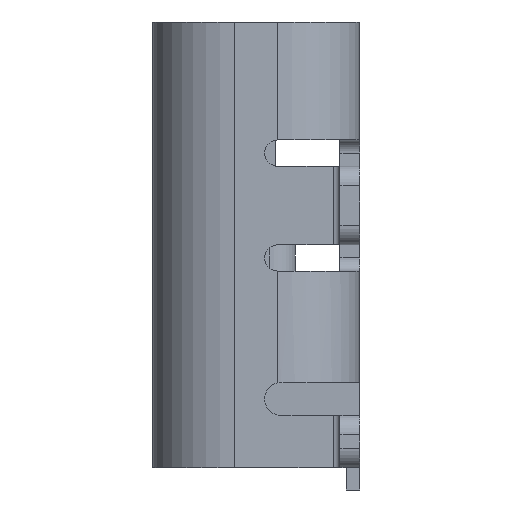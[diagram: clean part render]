
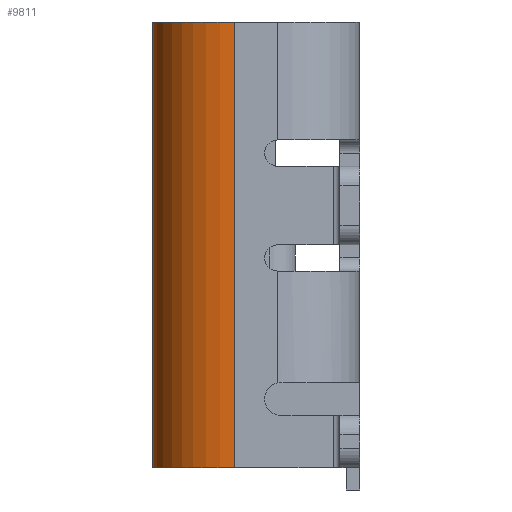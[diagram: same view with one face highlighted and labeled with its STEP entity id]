
A CAD part, left-side view. The second image highlights one B-rep face of the part: STEP entity #9811.
In plain terms, the highlighted cylindrical face has radius 1.25 mm (diameter 2.5 mm), a partial arc.
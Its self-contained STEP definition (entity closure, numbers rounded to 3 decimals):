
#40 = AXIS2_PLACEMENT_3D ( 'NONE', #8852, #6820, #1530 ) ;
#461 = VERTEX_POINT ( 'NONE', #10931 ) ;
#523 = AXIS2_PLACEMENT_3D ( 'NONE', #9711, #2463, #3411 ) ;
#1256 = DIRECTION ( 'NONE',  ( 0., 0., 1. ) ) ;
#1298 = FACE_OUTER_BOUND ( 'NONE', #6381, .T. ) ;
#1530 = DIRECTION ( 'NONE',  ( 1., 0., 0. ) ) ;
#2028 = LINE ( 'NONE', #4366, #11999 ) ;
#2064 = ORIENTED_EDGE ( 'NONE', *, *, #10273, .T. ) ;
#2240 = EDGE_CURVE ( 'NONE', #9883, #461, #10537, .T. ) ;
#2463 = DIRECTION ( 'NONE',  ( 0., 0., 1. ) ) ;
#2483 = CARTESIAN_POINT ( 'NONE',  ( -4.47, 1.91, -3.23 ) ) ;
#3411 = DIRECTION ( 'NONE',  ( -1., 0., 0. ) ) ;
#3423 = CARTESIAN_POINT ( 'NONE',  ( -3.22, 3.16, 3.57 ) ) ;
#3562 = ORIENTED_EDGE ( 'NONE', *, *, #2240, .T. ) ;
#4366 = CARTESIAN_POINT ( 'NONE',  ( -3.22, 3.16, -3.23 ) ) ;
#5320 = DIRECTION ( 'NONE',  ( 1., 0., 0. ) ) ;
#5331 = ORIENTED_EDGE ( 'NONE', *, *, #7535, .F. ) ;
#5534 = DIRECTION ( 'NONE',  ( 0., 0., 1. ) ) ;
#6381 = EDGE_LOOP ( 'NONE', ( #6903, #5331, #2064, #3562 ) ) ;
#6820 = DIRECTION ( 'NONE',  ( 0., 0., 1. ) ) ;
#6829 = CARTESIAN_POINT ( 'NONE',  ( -3.22, 3.16, -3.23 ) ) ;
#6903 = ORIENTED_EDGE ( 'NONE', *, *, #11945, .F. ) ;
#6935 = VERTEX_POINT ( 'NONE', #3423 ) ;
#7535 = EDGE_CURVE ( 'NONE', #8398, #6935, #2028, .T. ) ;
#8398 = VERTEX_POINT ( 'NONE', #6829 ) ;
#8852 = CARTESIAN_POINT ( 'NONE',  ( -3.22, 1.91, 3.57 ) ) ;
#8872 = AXIS2_PLACEMENT_3D ( 'NONE', #10569, #1256, #5320 ) ;
#9711 = CARTESIAN_POINT ( 'NONE',  ( -3.22, 1.91, -3.23 ) ) ;
#9793 = CIRCLE ( 'NONE', #8872, 1.25 ) ;
#9811 = ADVANCED_FACE ( 'NONE', ( #1298 ), #11298, .T. ) ;
#9883 = VERTEX_POINT ( 'NONE', #11074 ) ;
#10273 = EDGE_CURVE ( 'NONE', #8398, #9883, #9793, .T. ) ;
#10537 = LINE ( 'NONE', #2483, #12952 ) ;
#10569 = CARTESIAN_POINT ( 'NONE',  ( -3.22, 1.91, -3.23 ) ) ;
#10931 = CARTESIAN_POINT ( 'NONE',  ( -4.47, 1.91, 3.57 ) ) ;
#11074 = CARTESIAN_POINT ( 'NONE',  ( -4.47, 1.91, -3.23 ) ) ;
#11298 = CYLINDRICAL_SURFACE ( 'NONE', #523, 1.25 ) ;
#11709 = DIRECTION ( 'NONE',  ( 0., 0., 1. ) ) ;
#11761 = CIRCLE ( 'NONE', #40, 1.25 ) ;
#11945 = EDGE_CURVE ( 'NONE', #6935, #461, #11761, .T. ) ;
#11999 = VECTOR ( 'NONE', #11709, 1000. ) ;
#12952 = VECTOR ( 'NONE', #5534, 1000. ) ;
